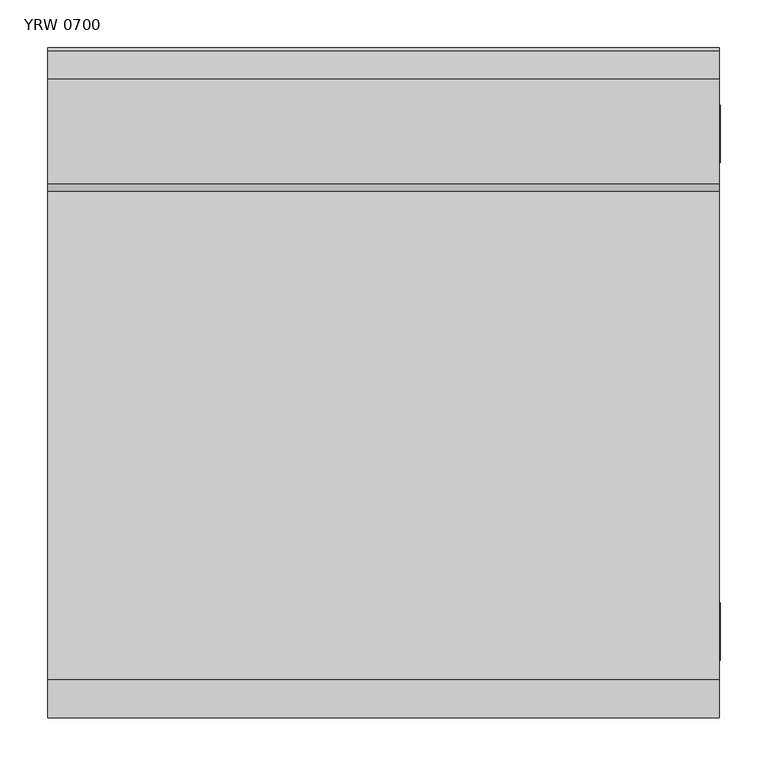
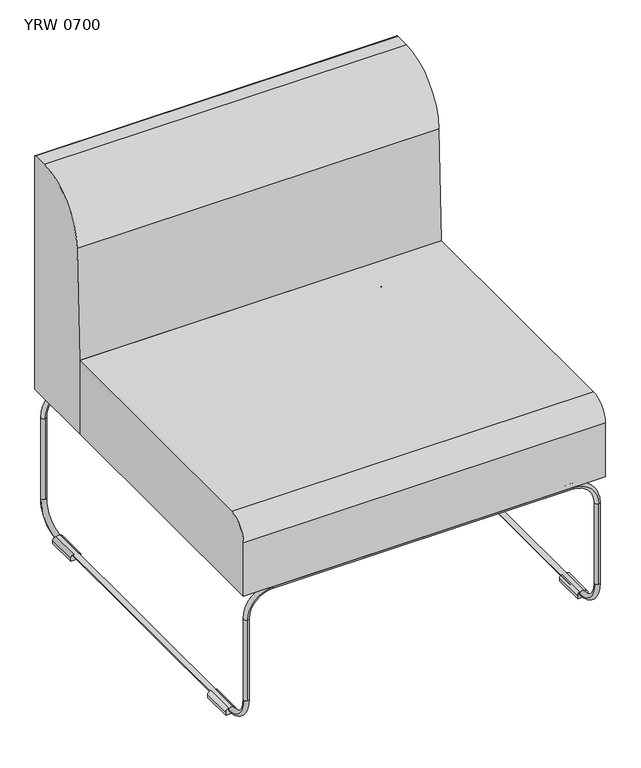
"""IFC4 building model written with IfcOpenShell, lengths in millimetres: furniture geometry, Mobiliário_Mobiliário de Escritório_LinhaYoung_Sofa Reto (Aramado) - YR_Marelli : YRW 0700."""

from ifc_helpers import new_model, si_unit, point, frame, frame_2d, origin, place, context, project, spatial, polyline, circle_curve, ellipse_curve, trimmed, segment, composite_curve, outline, extrude, source, transform, mapped, element, save
from ifc_brep_helpers import cylinder_surface, revolved_surface, advanced_brep


def yrw_0700_b2f553f3(model_context):
    return source(origin(), model_context, "Body", "SolidModel", [
        advanced_brep(
        [(15.0, 640.0, 9.0), (15.0, 690.0, 59.0), (10.0, 685.0, 59.0), (5.0, 690.0, 59.0), (5.0, 640.0, 9.0), (10.0, 695.0, 59.0), (5.0, 60.0, 9.0), (15.0, 60.0, 9.0), (695.0, 60.0, 9.0), (695.0, 640.0, 9.0), (685.0, 640.0, 9.0), (685.0, 60.0, 9.0), (695.0, 690.0, 59.0), (690.0, 685.0, 59.0), (685.0, 690.0, 59.0), (690.0, 695.0, 59.0), (5.0, 10.0, 59.0), (10.0, 15.0, 59.0), (15.0, 10.0, 59.0), (10.0, 5.0, 59.0), (685.0, 10.0, 59.0), (690.0, 15.0, 59.0), (695.0, 10.0, 59.0), (690.0, 5.0, 59.0), (640.0, 5.0, 275.0), (60.0, 5.0, 275.0), (60.0, 15.0, 275.0), (70.0, 15.0, 275.0), (75.0, 10.0, 270.0), (80.0, 15.0, 275.0), (620.0, 15.0, 275.0), (625.0, 10.0, 270.0), (630.0, 15.0, 275.0), (640.0, 15.0, 275.0), (625.0, 10.0, 280.0), (75.0, 10.0, 280.0), (640.0, 695.0, 275.0), (60.0, 695.0, 275.0), (60.0, 685.0, 275.0), (70.0, 685.0, 275.0), (75.0, 690.0, 280.0), (80.0, 685.0, 275.0), (620.0, 685.0, 275.0), (625.0, 690.0, 280.0), (630.0, 685.0, 275.0), (640.0, 685.0, 275.0), (625.0, 690.0, 270.0), (75.0, 690.0, 270.0), (10.0, 5.0, 225.0), (10.0, 15.0, 225.0), (690.0, 15.0, 225.0), (690.0, 5.0, 225.0), (10.0, 685.0, 225.0), (10.0, 695.0, 225.0), (690.0, 695.0, 225.0), (690.0, 685.0, 225.0)],
        [
            (0, 1, circle_curve(frame((15.0, 640.0, 59.0), z_axis=(1.0, 0.0, 0.0), x_axis=(0.0, 1.0, 0.0)), 50.0)),
            (1, 2, circle_curve(frame((10.0, 690.0, 59.0), z_axis=(0.0, 0.0, -1.0), x_axis=(1.0, 0.0, 0.0)), 5.0)),
            (2, 3, circle_curve(frame((10.0, 690.0, 59.0), z_axis=(0.0, 0.0, -1.0), x_axis=(1.0, 0.0, 0.0)), 5.0)),
            (3, 4, circle_curve(frame((5.0, 640.0, 59.0), z_axis=(-1.0, 0.0, 0.0), x_axis=(0.0, 1.0, 0.0)), 50.0)),
            (4, 0, circle_curve(frame((10.0, 640.0, 9.0), z_axis=(0.0, 1.0, 0.0), x_axis=(1.0, 0.0, 0.0)), 5.0)),
            (0, 4, circle_curve(frame((10.0, 640.0, 9.0), z_axis=(0.0, 1.0, 0.0), x_axis=(1.0, 0.0, 0.0)), 5.0)),
            (3, 5, circle_curve(frame((10.0, 690.0, 59.0), z_axis=(0.0, 0.0, -1.0), x_axis=(1.0, 0.0, 0.0)), 5.0)),
            (5, 1, circle_curve(frame((10.0, 690.0, 59.0), z_axis=(0.0, 0.0, -1.0), x_axis=(1.0, 0.0, 0.0)), 5.0)),
            (6, 4),
            (0, 7),
            (7, 6, circle_curve(frame((10.0, 60.0, 9.0), z_axis=(0.0, 1.0, 0.0), x_axis=(1.0, 0.0, 0.0)), 5.0)),
            (6, 7, circle_curve(frame((10.0, 60.0, 9.0), z_axis=(0.0, 1.0, 0.0), x_axis=(1.0, 0.0, 0.0)), 5.0)),
            (8, 9),
            (9, 10, circle_curve(frame((690.0, 640.0, 9.0), z_axis=(0.0, -1.0, 0.0), x_axis=(-1.0, 0.0, 0.0)), 5.0)),
            (10, 11),
            (11, 8, circle_curve(frame((690.0, 60.0, 9.0), z_axis=(0.0, 1.0, 0.0), x_axis=(-1.0, 0.0, 0.0)), 5.0)),
            (8, 11, circle_curve(frame((690.0, 60.0, 9.0), z_axis=(0.0, 1.0, 0.0), x_axis=(-1.0, 0.0, 0.0)), 5.0)),
            (10, 9, circle_curve(frame((690.0, 640.0, 9.0), z_axis=(0.0, -1.0, 0.0), x_axis=(-1.0, 0.0, 0.0)), 5.0)),
            (9, 12, circle_curve(frame((695.0, 640.0, 59.0), z_axis=(1.0, 0.0, 0.0), x_axis=(0.0, 1.0, 0.0)), 50.0)),
            (12, 13, circle_curve(frame((690.0, 690.0, 59.0), z_axis=(0.0, 0.0, -1.0), x_axis=(-1.0, 0.0, 0.0)), 5.0)),
            (13, 14, circle_curve(frame((690.0, 690.0, 59.0), z_axis=(0.0, 0.0, -1.0), x_axis=(-1.0, 0.0, 0.0)), 5.0)),
            (14, 10, circle_curve(frame((685.0, 640.0, 59.0), z_axis=(-1.0, 0.0, 0.0), x_axis=(0.0, 1.0, 0.0)), 50.0)),
            (14, 15, circle_curve(frame((690.0, 690.0, 59.0), z_axis=(0.0, 0.0, -1.0), x_axis=(-1.0, 0.0, 0.0)), 5.0)),
            (15, 12, circle_curve(frame((690.0, 690.0, 59.0), z_axis=(0.0, 0.0, -1.0), x_axis=(-1.0, 0.0, 0.0)), 5.0)),
            (6, 16, circle_curve(frame((5.0, 60.0, 59.0), z_axis=(-1.0, 0.0, 0.0), x_axis=(0.0, -1.0, 0.0)), 50.0)),
            (16, 17, circle_curve(frame((10.0, 10.0, 59.0), z_axis=(0.0, 0.0, -1.0), x_axis=(1.0, 0.0, 0.0)), 5.0)),
            (17, 18, circle_curve(frame((10.0, 10.0, 59.0), z_axis=(0.0, 0.0, -1.0), x_axis=(1.0, 0.0, 0.0)), 5.0)),
            (18, 7, circle_curve(frame((15.0, 60.0, 59.0), z_axis=(1.0, 0.0, 0.0), x_axis=(0.0, -1.0, 0.0)), 50.0)),
            (18, 19, circle_curve(frame((10.0, 10.0, 59.0), z_axis=(0.0, 0.0, -1.0), x_axis=(1.0, 0.0, 0.0)), 5.0)),
            (19, 16, circle_curve(frame((10.0, 10.0, 59.0), z_axis=(0.0, 0.0, -1.0), x_axis=(1.0, 0.0, 0.0)), 5.0)),
            (11, 20, circle_curve(frame((685.0, 60.0, 59.0), z_axis=(-1.0, 0.0, 0.0), x_axis=(0.0, -1.0, 0.0)), 50.0)),
            (20, 21, circle_curve(frame((690.0, 10.0, 59.0), z_axis=(0.0, 0.0, -1.0), x_axis=(-1.0, 0.0, 0.0)), 5.0)),
            (21, 22, circle_curve(frame((690.0, 10.0, 59.0), z_axis=(0.0, 0.0, -1.0), x_axis=(-1.0, 0.0, 0.0)), 5.0)),
            (22, 8, circle_curve(frame((695.0, 60.0, 59.0), z_axis=(1.0, 0.0, 0.0), x_axis=(0.0, -1.0, 0.0)), 50.0)),
            (22, 23, circle_curve(frame((690.0, 10.0, 59.0), z_axis=(0.0, 0.0, -1.0), x_axis=(-1.0, 0.0, 0.0)), 5.0)),
            (23, 20, circle_curve(frame((690.0, 10.0, 59.0), z_axis=(0.0, 0.0, -1.0), x_axis=(-1.0, 0.0, 0.0)), 5.0)),
            (24, 25),
            (25, 26, circle_curve(frame((60.0, 10.0, 275.0), z_axis=(1.0, 0.0, 0.0), x_axis=(0.0, 1.0, 0.0)), 5.0)),
            (26, 27),
            (27, 28, ellipse_curve(frame((75.0, 10.0, 275.0), z_axis=(-0.7071067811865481, -0.7071067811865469, 0.0), x_axis=(0.7071067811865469, -0.7071067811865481, 0.0)), 7.0710678, 5.0)),
            (28, 29, ellipse_curve(frame((75.0, 10.0, 275.0), z_axis=(0.7071067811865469, -0.7071067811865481, 0.0), x_axis=(0.7071067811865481, 0.7071067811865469, 0.0)), 7.0710678, 5.0)),
            (29, 30),
            (30, 31, ellipse_curve(frame((625.0, 10.0, 275.0), z_axis=(-0.7071067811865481, -0.7071067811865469, 0.0), x_axis=(0.7071067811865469, -0.7071067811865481, 0.0)), 7.0710678, 5.0)),
            (31, 32, ellipse_curve(frame((625.0, 10.0, 275.0), z_axis=(0.7071067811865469, -0.7071067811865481, 0.0), x_axis=(0.7071067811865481, 0.7071067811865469, 0.0)), 7.0710678, 5.0)),
            (32, 33),
            (33, 24, circle_curve(frame((640.0, 10.0, 275.0), z_axis=(-1.0, 0.0, 0.0), x_axis=(0.0, 1.0, 0.0)), 5.0)),
            (24, 33, circle_curve(frame((640.0, 10.0, 275.0), z_axis=(-1.0, 0.0, 0.0), x_axis=(0.0, 1.0, 0.0)), 5.0)),
            (32, 34, ellipse_curve(frame((625.0, 10.0, 275.0), z_axis=(0.7071067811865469, -0.7071067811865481, 0.0), x_axis=(0.7071067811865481, 0.7071067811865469, 0.0)), 7.0710678, 5.0)),
            (34, 30, ellipse_curve(frame((625.0, 10.0, 275.0), z_axis=(-0.7071067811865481, -0.7071067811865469, 0.0), x_axis=(0.7071067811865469, -0.7071067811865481, 0.0)), 7.0710678, 5.0)),
            (29, 35, ellipse_curve(frame((75.0, 10.0, 275.0), z_axis=(0.7071067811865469, -0.7071067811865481, 0.0), x_axis=(0.7071067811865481, 0.7071067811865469, 0.0)), 7.0710678, 5.0)),
            (35, 27, ellipse_curve(frame((75.0, 10.0, 275.0), z_axis=(-0.7071067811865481, -0.7071067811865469, 0.0), x_axis=(0.7071067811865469, -0.7071067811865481, 0.0)), 7.0710678, 5.0)),
            (26, 25, circle_curve(frame((60.0, 10.0, 275.0), z_axis=(1.0, 0.0, 0.0), x_axis=(0.0, 1.0, 0.0)), 5.0)),
            (36, 37),
            (37, 38, circle_curve(frame((60.0, 690.0, 275.0), z_axis=(1.0, 0.0, 0.0), x_axis=(0.0, -1.0, 0.0)), 5.0)),
            (38, 39),
            (39, 40, ellipse_curve(frame((75.0, 690.0, 275.0), z_axis=(-0.7071067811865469, 0.7071067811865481, 0.0), x_axis=(0.7071067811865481, 0.7071067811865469, 0.0)), 7.0710678, 5.0)),
            (40, 41, ellipse_curve(frame((75.0, 690.0, 275.0), z_axis=(0.7071067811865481, 0.7071067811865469, 0.0), x_axis=(0.7071067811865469, -0.7071067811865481, 0.0)), 7.0710678, 5.0)),
            (41, 42),
            (42, 43, ellipse_curve(frame((625.0, 690.0, 275.0), z_axis=(-0.7071067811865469, 0.7071067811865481, 0.0), x_axis=(0.7071067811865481, 0.7071067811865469, 0.0)), 7.0710678, 5.0)),
            (43, 44, ellipse_curve(frame((625.0, 690.0, 275.0), z_axis=(0.7071067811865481, 0.7071067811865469, 0.0), x_axis=(0.7071067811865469, -0.7071067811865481, 0.0)), 7.0710678, 5.0)),
            (44, 45),
            (45, 36, circle_curve(frame((640.0, 690.0, 275.0), z_axis=(-1.0, 0.0, 0.0), x_axis=(0.0, -1.0, 0.0)), 5.0)),
            (36, 45, circle_curve(frame((640.0, 690.0, 275.0), z_axis=(-1.0, 0.0, 0.0), x_axis=(0.0, -1.0, 0.0)), 5.0)),
            (44, 46, ellipse_curve(frame((625.0, 690.0, 275.0), z_axis=(0.7071067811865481, 0.7071067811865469, 0.0), x_axis=(0.7071067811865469, -0.7071067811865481, 0.0)), 7.0710678, 5.0)),
            (46, 42, ellipse_curve(frame((625.0, 690.0, 275.0), z_axis=(-0.7071067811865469, 0.7071067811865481, 0.0), x_axis=(0.7071067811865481, 0.7071067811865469, 0.0)), 7.0710678, 5.0)),
            (41, 47, ellipse_curve(frame((75.0, 690.0, 275.0), z_axis=(0.7071067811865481, 0.7071067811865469, 0.0), x_axis=(0.7071067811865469, -0.7071067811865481, 0.0)), 7.0710678, 5.0)),
            (47, 39, ellipse_curve(frame((75.0, 690.0, 275.0), z_axis=(-0.7071067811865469, 0.7071067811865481, 0.0), x_axis=(0.7071067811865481, 0.7071067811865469, 0.0)), 7.0710678, 5.0)),
            (38, 37, circle_curve(frame((60.0, 690.0, 275.0), z_axis=(1.0, 0.0, 0.0), x_axis=(0.0, -1.0, 0.0)), 5.0)),
            (25, 48, circle_curve(frame((60.0, 5.0, 225.0), z_axis=(0.0, -1.0, 0.0), x_axis=(-1.0, 0.0, 0.0)), 50.0)),
            (48, 49, circle_curve(frame((10.0, 10.0, 225.0), z_axis=(0.0, 0.0, 1.0), x_axis=(0.0, -1.0, 0.0)), 5.0)),
            (49, 26, circle_curve(frame((60.0, 15.0, 225.0), z_axis=(0.0, 1.0, 0.0), x_axis=(-1.0, 0.0, 0.0)), 50.0)),
            (49, 48, circle_curve(frame((10.0, 10.0, 225.0), z_axis=(0.0, 0.0, 1.0), x_axis=(0.0, -1.0, 0.0)), 5.0)),
            (33, 50, circle_curve(frame((640.0, 15.0, 225.0), z_axis=(0.0, 1.0, 0.0), x_axis=(1.0, 0.0, 0.0)), 50.0)),
            (50, 51, circle_curve(frame((690.0, 10.0, 225.0), z_axis=(0.0, 0.0, 1.0), x_axis=(0.0, -1.0, 0.0)), 5.0)),
            (51, 24, circle_curve(frame((640.0, 5.0, 225.0), z_axis=(0.0, -1.0, 0.0), x_axis=(1.0, 0.0, 0.0)), 50.0)),
            (51, 50, circle_curve(frame((690.0, 10.0, 225.0), z_axis=(0.0, 0.0, 1.0), x_axis=(0.0, -1.0, 0.0)), 5.0)),
            (38, 52, circle_curve(frame((60.0, 685.0, 225.0), z_axis=(0.0, -1.0, 0.0), x_axis=(-1.0, 0.0, 0.0)), 50.0)),
            (52, 53, circle_curve(frame((10.0, 690.0, 225.0), z_axis=(0.0, 0.0, 1.0), x_axis=(0.0, 1.0, 0.0)), 5.0)),
            (53, 37, circle_curve(frame((60.0, 695.0, 225.0), z_axis=(0.0, 1.0, 0.0), x_axis=(-1.0, 0.0, 0.0)), 50.0)),
            (53, 52, circle_curve(frame((10.0, 690.0, 225.0), z_axis=(0.0, 0.0, 1.0), x_axis=(0.0, 1.0, 0.0)), 5.0)),
            (36, 54, circle_curve(frame((640.0, 695.0, 225.0), z_axis=(0.0, 1.0, 0.0), x_axis=(1.0, 0.0, 0.0)), 50.0)),
            (54, 55, circle_curve(frame((690.0, 690.0, 225.0), z_axis=(0.0, 0.0, 1.0), x_axis=(0.0, 1.0, 0.0)), 5.0)),
            (55, 45, circle_curve(frame((640.0, 685.0, 225.0), z_axis=(0.0, -1.0, 0.0), x_axis=(1.0, 0.0, 0.0)), 50.0)),
            (55, 54, circle_curve(frame((690.0, 690.0, 225.0), z_axis=(0.0, 0.0, 1.0), x_axis=(0.0, 1.0, 0.0)), 5.0)),
            (41, 29),
            (27, 39),
            (32, 44),
            (42, 30),
            (53, 5),
            (2, 52),
            (54, 15),
            (13, 55),
            (48, 19),
            (17, 49),
            (51, 23),
            (21, 50),
        ],
        [
            revolved_surface(trimmed(ellipse_curve(frame((10.0, 690.0, 59.0), z_axis=(0.0, 0.0, 1.0), x_axis=(1.0, 0.0, 0.0)), 5.0, 5.0), [point((5.0, 690.0, 59.0))], [point((15.0, 690.0, 59.0))], True, "CARTESIAN"), (20.0, 640.0, 59.0), (-1.0, 0.0, 0.0)),
            revolved_surface(trimmed(ellipse_curve(frame((10.0, 690.0, 59.0), z_axis=(0.0, 0.0, 1.0), x_axis=(1.0, 0.0, 0.0)), 5.0, 5.0), [point((15.0, 690.0, 59.0))], [point((5.0, 690.0, 59.0))], True, "CARTESIAN"), (20.0, 640.0, 59.0), (-1.0, 0.0, 0.0)),
            cylinder_surface(frame((10.0, 640.0, 9.0), z_axis=(0.0, -1.0, 0.0), x_axis=(1.0, 0.0, 0.0)), 5.0),
            cylinder_surface(frame((690.0, 0.0, 9.0), z_axis=(0.0, -1.0, 0.0), x_axis=(-1.0, 0.0, 0.0)), 5.0),
            revolved_surface(trimmed(ellipse_curve(frame((690.0, 690.0, 59.0), z_axis=(0.0, 0.0, 1.0), x_axis=(-1.0, 0.0, 0.0)), 5.0, 5.0), [point((685.0, 690.0, 59.0))], [point((695.0, 690.0, 59.0))], True, "CARTESIAN"), (680.0, 640.0, 59.0), (-1.0, 0.0, 0.0)),
            revolved_surface(trimmed(ellipse_curve(frame((690.0, 690.0, 59.0), z_axis=(0.0, 0.0, 1.0), x_axis=(-1.0, 0.0, 0.0)), 5.0, 5.0), [point((695.0, 690.0, 59.0))], [point((685.0, 690.0, 59.0))], True, "CARTESIAN"), (680.0, 640.0, 59.0), (-1.0, 0.0, 0.0)),
            revolved_surface(trimmed(ellipse_curve(frame((10.0, 10.0, 59.0), z_axis=(0.0, 0.0, 1.0), x_axis=(1.0, 0.0, 0.0)), 5.0, 5.0), [point((15.0, 10.0, 59.0))], [point((5.0, 10.0, 59.0))], True, "CARTESIAN"), (20.0, 60.0, 59.0), (1.0, 0.0, 0.0)),
            revolved_surface(trimmed(ellipse_curve(frame((10.0, 10.0, 59.0), z_axis=(0.0, 0.0, 1.0), x_axis=(1.0, 0.0, 0.0)), 5.0, 5.0), [point((5.0, 10.0, 59.0))], [point((15.0, 10.0, 59.0))], True, "CARTESIAN"), (20.0, 60.0, 59.0), (1.0, 0.0, 0.0)),
            revolved_surface(trimmed(ellipse_curve(frame((690.0, 10.0, 59.0), z_axis=(0.0, 0.0, 1.0), x_axis=(-1.0, 0.0, 0.0)), 5.0, 5.0), [point((695.0, 10.0, 59.0))], [point((685.0, 10.0, 59.0))], True, "CARTESIAN"), (680.0, 60.0, 59.0), (1.0, 0.0, 0.0)),
            revolved_surface(trimmed(ellipse_curve(frame((690.0, 10.0, 59.0), z_axis=(0.0, 0.0, 1.0), x_axis=(-1.0, 0.0, 0.0)), 5.0, 5.0), [point((685.0, 10.0, 59.0))], [point((695.0, 10.0, 59.0))], True, "CARTESIAN"), (680.0, 60.0, 59.0), (1.0, 0.0, 0.0)),
            cylinder_surface(frame((60.0, 10.0, 275.0), z_axis=(1.0, 0.0, 0.0), x_axis=(0.0, 1.0, 0.0)), 5.0),
            cylinder_surface(frame((740.0, 690.0, 275.0), z_axis=(1.0, 0.0, 0.0), x_axis=(0.0, -1.0, 0.0)), 5.0),
            revolved_surface(trimmed(ellipse_curve(frame((10.0, 10.0, 225.0), z_axis=(0.0, 0.0, -1.0), x_axis=(0.0, -1.0, 0.0)), 5.0, 5.0), [point((10.0, 15.0, 225.0))], [point((10.0, 5.0, 225.0))], True, "CARTESIAN"), (60.0, 0.0, 225.0), (0.0, 1.0, 0.0)),
            revolved_surface(trimmed(ellipse_curve(frame((10.0, 10.0, 225.0), z_axis=(0.0, 0.0, -1.0), x_axis=(0.0, -1.0, 0.0)), 5.0, 5.0), [point((10.0, 5.0, 225.0))], [point((10.0, 15.0, 225.0))], True, "CARTESIAN"), (60.0, 0.0, 225.0), (0.0, 1.0, 0.0)),
            revolved_surface(trimmed(ellipse_curve(frame((690.0, 10.0, 225.0), z_axis=(0.0, 0.0, -1.0), x_axis=(0.0, -1.0, 0.0)), 5.0, 5.0), [point((690.0, 5.0, 225.0))], [point((690.0, 15.0, 225.0))], True, "CARTESIAN"), (640.0, 0.0, 225.0), (0.0, -1.0, 0.0)),
            revolved_surface(trimmed(ellipse_curve(frame((690.0, 10.0, 225.0), z_axis=(0.0, 0.0, -1.0), x_axis=(0.0, -1.0, 0.0)), 5.0, 5.0), [point((690.0, 15.0, 225.0))], [point((690.0, 5.0, 225.0))], True, "CARTESIAN"), (640.0, 0.0, 225.0), (0.0, -1.0, 0.0)),
            revolved_surface(trimmed(ellipse_curve(frame((10.0, 690.0, 225.0), z_axis=(0.0, 0.0, -1.0), x_axis=(0.0, 1.0, 0.0)), 5.0, 5.0), [point((10.0, 695.0, 225.0))], [point((10.0, 685.0, 225.0))], True, "CARTESIAN"), (60.0, 700.0, 225.0), (0.0, 1.0, 0.0)),
            revolved_surface(trimmed(ellipse_curve(frame((10.0, 690.0, 225.0), z_axis=(0.0, 0.0, -1.0), x_axis=(0.0, 1.0, 0.0)), 5.0, 5.0), [point((10.0, 685.0, 225.0))], [point((10.0, 695.0, 225.0))], True, "CARTESIAN"), (60.0, 700.0, 225.0), (0.0, 1.0, 0.0)),
            revolved_surface(trimmed(ellipse_curve(frame((690.0, 690.0, 225.0), z_axis=(0.0, 0.0, -1.0), x_axis=(0.0, 1.0, 0.0)), 5.0, 5.0), [point((690.0, 685.0, 225.0))], [point((690.0, 695.0, 225.0))], True, "CARTESIAN"), (640.0, 700.0, 225.0), (0.0, -1.0, 0.0)),
            revolved_surface(trimmed(ellipse_curve(frame((690.0, 690.0, 225.0), z_axis=(0.0, 0.0, -1.0), x_axis=(0.0, 1.0, 0.0)), 5.0, 5.0), [point((690.0, 695.0, 225.0))], [point((690.0, 685.0, 225.0))], True, "CARTESIAN"), (640.0, 700.0, 225.0), (0.0, -1.0, 0.0)),
            cylinder_surface(frame((75.0, 690.0, 275.0), z_axis=(0.0, -1.0, 0.0), x_axis=(1.0, 0.0, 0.0)), 5.0),
            cylinder_surface(frame((625.0, 0.0, 275.0), z_axis=(0.0, -1.0, 0.0), x_axis=(-1.0, 0.0, 0.0)), 5.0),
            cylinder_surface(frame((10.0, 690.0, 59.0), z_axis=(0.0, 0.0, 1.0), x_axis=(0.0, 1.0, 0.0)), 5.0),
            cylinder_surface(frame((690.0, 690.0, 0.0), z_axis=(0.0, 0.0, 1.0), x_axis=(0.0, 1.0, 0.0)), 5.0),
            cylinder_surface(frame((10.0, 10.0, 0.0), z_axis=(0.0, 0.0, 1.0), x_axis=(0.0, -1.0, 0.0)), 5.0),
            cylinder_surface(frame((690.0, 10.0, 0.0), z_axis=(0.0, 0.0, 1.0), x_axis=(0.0, -1.0, 0.0)), 5.0),
        ],
        [
            (0, [[1, 2, 3, 4, 5]]),
            (1, [[-1, 6, -4, 7, 8]]),
            (2, [[9, -6, 10, 11]]),
            (2, [[-9, 12, -10, -5]]),
            (3, [[13, 14, 15, 16]]),
            (3, [[-13, 17, -15, 18]]),
            (4, [[19, 20, 21, 22, -14]]),
            (5, [[-19, -18, -22, 23, 24]]),
            (6, [[25, 26, 27, 28, -12]]),
            (7, [[-25, -11, -28, 29, 30]]),
            (8, [[31, 32, 33, 34, -16]]),
            (9, [[-31, -17, -34, 35, 36]]),
            (10, [[37, 38, 39, 40, 41, 42, 43, 44, 45, 46]]),
            (10, [[-37, 47, -45, 48, 49, -42, 50, 51, -39, 52]]),
            (11, [[53, 54, 55, 56, 57, 58, 59, 60, 61, 62]]),
            (11, [[-53, 63, -61, 64, 65, -58, 66, 67, -55, 68]]),
            (12, [[69, 70, 71, -38]]),
            (13, [[-69, -52, -71, 72]]),
            (14, [[73, 74, 75, -46]]),
            (15, [[-73, -47, -75, 76]]),
            (16, [[77, 78, 79, -68]]),
            (17, [[-77, -54, -79, 80]]),
            (18, [[81, 82, 83, -63]]),
            (19, [[-81, -62, -83, 84]]),
            (20, [[85, -41, -40, 86, -67, -66]]),
            (20, [[-85, -57, -56, -86, -51, -50]]),
            (21, [[87, -60, -59, 88, -49, -48]]),
            (21, [[-87, -44, -43, -88, -65, -64]]),
            (22, [[89, -7, -3, 90, -80]]),
            (22, [[-89, -78, -90, -2, -8]]),
            (23, [[91, -23, -21, 92, -82]]),
            (23, [[-91, -84, -92, -20, -24]]),
            (24, [[93, -29, -27, 94, -70]]),
            (24, [[-93, -72, -94, -26, -30]]),
            (25, [[95, -35, -33, 96, -76]]),
            (25, [[-95, -74, -96, -32, -36]]),
        ],
    ),
        extrude(outline(composite_curve([segment(polyline([(0.0, 19.0127166), (6.0, 19.0127166)]), True, "CONTINUOUS"), segment(trimmed(circle_curve(frame_2d((6.0, 13.0127166)), 6.0), [point((6.0, 19.0127166))], [point((11.9041735, 14.0807687))], False, "CARTESIAN"), True, "CONTINUOUS"), segment(trimmed(circle_curve(frame_2d((8.9971213, 10.0127166)), 5.0), [point((11.9041735, 14.0807687))], [point((11.9248285, 5.9595042))], True, "CARTESIAN"), True, "CONTINUOUS"), segment(trimmed(circle_curve(frame_2d((6.0, 5.0127166)), 6.0), [point((11.9248285, 5.9595042))], [point((6.0, -0.9872834))], False, "CARTESIAN"), True, "CONTINUOUS"), segment(polyline([(6.0, -0.9872834), (0.0, -0.9872834), (0.0, 19.0127166)]), True, "CONTINUOUS")], self_intersect=False)), frame((0.0, 60.0, 0.0), z_axis=(0.0, 1.0, 0.0), x_axis=(0.0, 0.0, 1.0)), (0.0, 0.0, 1.0), 60.0),
        extrude(outline(composite_curve([segment(polyline([(0.0, 680.9872834), (0.0, 700.9872834), (6.0, 700.9872834)]), True, "CONTINUOUS"), segment(trimmed(circle_curve(frame_2d((6.0, 694.9872834)), 6.0), [point((6.0, 700.9872834))], [point((11.9248285, 694.0404958))], False, "CARTESIAN"), True, "CONTINUOUS"), segment(trimmed(circle_curve(frame_2d((8.9971213, 689.9872834)), 5.0), [point((11.9248285, 694.0404958))], [point((11.9041735, 685.9192313))], True, "CARTESIAN"), True, "CONTINUOUS"), segment(trimmed(circle_curve(frame_2d((6.0, 686.9872834)), 6.0), [point((11.9041735, 685.9192313))], [point((6.0, 680.9872834))], False, "CARTESIAN"), True, "CONTINUOUS"), segment(polyline([(6.0, 680.9872834), (0.0, 680.9872834)]), True, "CONTINUOUS")], self_intersect=False)), frame((0.0, 60.0, 0.0), z_axis=(0.0, 1.0, 0.0), x_axis=(0.0, 0.0, 1.0)), (0.0, 0.0, 1.0), 60.0),
        extrude(outline(composite_curve([segment(polyline([(0.0, 19.0127166), (6.0, 19.0127166)]), True, "CONTINUOUS"), segment(trimmed(circle_curve(frame_2d((6.0, 13.0127166)), 6.0), [point((6.0, 19.0127166))], [point((11.9041735, 14.0807687))], False, "CARTESIAN"), True, "CONTINUOUS"), segment(trimmed(circle_curve(frame_2d((8.9971213, 10.0127166)), 5.0), [point((11.9041735, 14.0807687))], [point((11.9248285, 5.9595042))], True, "CARTESIAN"), True, "CONTINUOUS"), segment(trimmed(circle_curve(frame_2d((6.0, 5.0127166)), 6.0), [point((11.9248285, 5.9595042))], [point((6.0, -0.9872834))], False, "CARTESIAN"), True, "CONTINUOUS"), segment(polyline([(6.0, -0.9872834), (0.0, -0.9872834), (0.0, 19.0127166)]), True, "CONTINUOUS")], self_intersect=False)), frame((0.0, 580.0, 0.0), z_axis=(0.0, 1.0, 0.0), x_axis=(0.0, 0.0, 1.0)), (0.0, 0.0, 1.0), 60.0),
        extrude(outline(composite_curve([segment(polyline([(0.0, 680.9872834), (0.0, 700.9872834), (6.0, 700.9872834)]), True, "CONTINUOUS"), segment(trimmed(circle_curve(frame_2d((6.0, 694.9872834)), 6.0), [point((6.0, 700.9872834))], [point((11.9248285, 694.0404958))], False, "CARTESIAN"), True, "CONTINUOUS"), segment(trimmed(circle_curve(frame_2d((8.9971213, 689.9872834)), 5.0), [point((11.9248285, 694.0404958))], [point((11.9041735, 685.9192313))], True, "CARTESIAN"), True, "CONTINUOUS"), segment(trimmed(circle_curve(frame_2d((6.0, 686.9872834)), 6.0), [point((11.9041735, 685.9192313))], [point((6.0, 680.9872834))], False, "CARTESIAN"), True, "CONTINUOUS"), segment(polyline([(6.0, 680.9872834), (0.0, 680.9872834)]), True, "CONTINUOUS")], self_intersect=False)), frame((0.0, 580.0, 0.0), z_axis=(0.0, 1.0, 0.0), x_axis=(0.0, 0.0, 1.0)), (0.0, 0.0, 1.0), 60.0),
        extrude(outline(composite_curve([segment(polyline([(700.0, 756.802426), (700.0, 280.0), (550.0, 280.0), (550.0, 430.0), (558.2568376, 654.223651)]), True, "CONTINUOUS"), segment(trimmed(circle_curve(frame_2d((668.0, 650.1824561)), 109.8175439), [point((558.2568376, 654.223651))], [point((668.0, 760.0))], False, "CARTESIAN"), True, "CONTINUOUS"), segment(polyline([(668.0, 760.0), (696.802426, 760.0)]), True, "CONTINUOUS"), segment(trimmed(circle_curve(frame_2d((696.802426, 756.802426)), 3.197574), [point((696.802426, 760.0))], [point((700.0, 756.802426))], False, "CARTESIAN"), True, "CONTINUOUS")], self_intersect=False)), frame((-0.9872834, 0.0, 0.0), z_axis=(1.0, 0.0, 0.0), x_axis=(0.0, 1.0, 0.0)), (0.0, 0.0, 1.0), 700.9872834),
        extrude(outline(composite_curve([segment(polyline([(550.0, 430.0), (550.0, 280.0), (0.0, 280.0), (0.0, 390.0)]), True, "CONTINUOUS"), segment(trimmed(circle_curve(frame_2d((40.0, 390.0)), 40.0), [point((0.0, 390.0))], [point((40.0, 430.0))], False, "CARTESIAN"), True, "CONTINUOUS"), segment(polyline([(40.0, 430.0), (550.0, 430.0)]), True, "CONTINUOUS")], self_intersect=False)), frame((-0.9872834, 0.0, 0.0), z_axis=(1.0, 0.0, 0.0), x_axis=(0.0, 1.0, 0.0)), (0.0, 0.0, 1.0), 700.9872834),
    ])


if __name__ == "__main__":
    model = new_model("IFC4")
    model_context = context("Model", 3, world=origin())
    ifc_project = project(units=[si_unit("LENGTHUNIT", "METRE", prefix="MILLI")], contexts=[model_context])
    site = spatial("IfcSite", under=ifc_project)
    building = spatial("IfcBuilding", under=site)
    placement = place(None, origin())
    yrw_0700_shape = yrw_0700_b2f553f3(model_context)
    element("IfcFurniture", 1, ObjectType="Mobiliário_Mobiliário de Escritório_LinhaYoung_Sofa Reto (Aramado) - YR_Marelli : YRW 0700", at=placement, inside=building, context=model_context, shape_type="MappedRepresentation", body=[
        mapped(yrw_0700_shape, transform((0.0, 0.0, 0.0), x_axis=(1.0, 0.0, 0.0), y_axis=(0.0, 1.0, 0.0), z_axis=(0.0, 0.0, 1.0))),
    ])
    save(model, "model.ifc")
